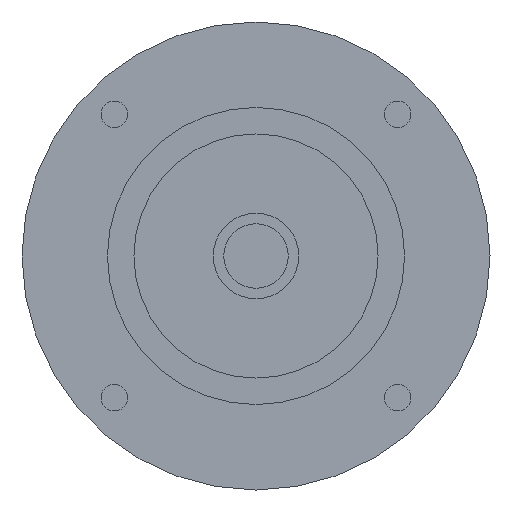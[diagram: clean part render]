
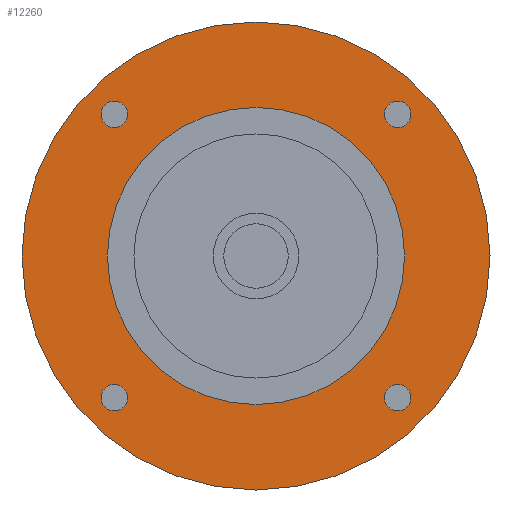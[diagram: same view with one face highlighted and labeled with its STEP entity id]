
A CAD part, left-side view. The second image highlights one B-rep face of the part: STEP entity #12260.
In plain terms, the highlighted planar face has unit normal (-1, 0, 0) as drawn and (0, 0, -1) by its records, which use the part's own axes.
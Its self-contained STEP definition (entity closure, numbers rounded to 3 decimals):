
#8650=CARTESIAN_POINT('',(-57.5,0.,-47.401));
#8660=VERTEX_POINT('',#8650);
#8690=CARTESIAN_POINT('',(0.,0.,
-47.401));
#8700=DIRECTION('',(0.,0.,-1.));
#8710=DIRECTION('',(0.,-1.,0.));
#8720=AXIS2_PLACEMENT_3D('',#8690,#8700,#8710);
#8730=CIRCLE('',#8720,57.5);
#8740=CARTESIAN_POINT('',(57.5,0.,-47.401));
#8750=VERTEX_POINT('',#8740);
#8760=EDGE_CURVE('',#8660,#8750,#8730,.T.);
#11200=CARTESIAN_POINT('',(-31.547,34.797,-47.401));
#11210=VERTEX_POINT('',#11200);
#11240=CARTESIAN_POINT('',(-34.797,34.797,-47.401));
#11250=DIRECTION('',(0.,0.,-1.));
#11260=DIRECTION('',(-1.,0.,0.));
#11270=AXIS2_PLACEMENT_3D('',#11240,#11250,#11260);
#11280=CIRCLE('',#11270,3.25);
#11290=CARTESIAN_POINT('',(-38.047,34.797,-47.401));
#11300=VERTEX_POINT('',#11290);
#11310=EDGE_CURVE('',#11300,#11210,#11280,.T.);
#11430=CARTESIAN_POINT('',(0.,0.,
-47.401));
#11440=DIRECTION('',(0.,0.,-1.));
#11450=DIRECTION('',(1.,0.,0.));
#11460=AXIS2_PLACEMENT_3D('',#11430,#11440,#11450);
#11470=PLANE('',#11460);
#11480=CARTESIAN_POINT('',(34.797,34.797,-47.401));
#11490=DIRECTION('',(0.,0.,-1.));
#11500=DIRECTION('',(0.,1.,0.));
#11510=AXIS2_PLACEMENT_3D('',#11480,#11490,#11500);
#11520=CIRCLE('',#11510,3.25);
#11530=CARTESIAN_POINT('',(34.797,38.047,-47.401));
#11540=VERTEX_POINT('',#11530);
#11550=CARTESIAN_POINT('',(34.797,31.547,-47.401));
#11560=VERTEX_POINT('',#11550);
#11570=EDGE_CURVE('',#11540,#11560,#11520,.T.);
#11580=ORIENTED_EDGE('',*,*,#11570,.F.);
#11590=EDGE_CURVE('',#11560,#11540,#11520,.T.);
#11600=ORIENTED_EDGE('',*,*,#11590,.F.);
#11610=EDGE_LOOP('',(#11600,#11580));
#11620=FACE_BOUND('',#11610,.T.);
#11630=ORIENTED_EDGE('',*,*,#11310,.F.);
#11640=EDGE_CURVE('',#11210,#11300,#11280,.T.);
#11650=ORIENTED_EDGE('',*,*,#11640,.F.);
#11660=EDGE_LOOP('',(#11650,#11630));
#11670=FACE_BOUND('',#11660,.T.);
#11680=CARTESIAN_POINT('',(-34.797,-34.797,-47.401));
#11690=DIRECTION('',(0.,0.,-1.));
#11700=DIRECTION('',(0.,-1.,0.));
#11710=AXIS2_PLACEMENT_3D('',#11680,#11690,#11700);
#11720=CIRCLE('',#11710,3.25);
#11730=CARTESIAN_POINT('',(-34.797,-38.047,-47.401));
#11740=VERTEX_POINT('',#11730);
#11750=CARTESIAN_POINT('',(-34.797,-31.547,-47.401));
#11760=VERTEX_POINT('',#11750);
#11770=EDGE_CURVE('',#11740,#11760,#11720,.T.);
#11780=ORIENTED_EDGE('',*,*,#11770,.F.);
#11790=EDGE_CURVE('',#11760,#11740,#11720,.T.);
#11800=ORIENTED_EDGE('',*,*,#11790,.F.);
#11810=EDGE_LOOP('',(#11800,#11780));
#11820=FACE_BOUND('',#11810,.T.);
#11830=CARTESIAN_POINT('',(0.,0.,
-47.401));
#11840=DIRECTION('',(0.,0.,1.));
#11850=DIRECTION('',(0.,1.,0.));
#11860=AXIS2_PLACEMENT_3D('',#11830,#11840,#11850);
#11870=CIRCLE('',#11860,36.51);
#11880=CARTESIAN_POINT('',(-36.51,0.,-47.401));
#11890=VERTEX_POINT('',#11880);
#11900=CARTESIAN_POINT('',(36.51,0.,-47.401));
#11910=VERTEX_POINT('',#11900);
#11920=EDGE_CURVE('',#11890,#11910,#11870,.T.);
#11930=ORIENTED_EDGE('',*,*,#11920,.T.);
#11940=CARTESIAN_POINT('',(0.,36.51,-47.401));
#11950=VERTEX_POINT('',#11940);
#11960=EDGE_CURVE('',#11950,#11890,#11870,.T.);
#11970=ORIENTED_EDGE('',*,*,#11960,.T.);
#11980=EDGE_CURVE('',#11910,#11950,#11870,.T.);
#11990=ORIENTED_EDGE('',*,*,#11980,.T.);
#12000=EDGE_LOOP('',(#11990,#11970,#11930));
#12010=FACE_BOUND('',#12000,.T.);
#12020=CARTESIAN_POINT('',(34.797,-34.797,-47.401));
#12030=DIRECTION('',(0.,0.,-1.));
#12040=DIRECTION('',(1.,0.,0.));
#12050=AXIS2_PLACEMENT_3D('',#12020,#12030,#12040);
#12060=CIRCLE('',#12050,3.25);
#12070=CARTESIAN_POINT('',(38.047,-34.797,-47.401));
#12080=VERTEX_POINT('',#12070);
#12090=CARTESIAN_POINT('',(31.547,-34.797,-47.401));
#12100=VERTEX_POINT('',#12090);
#12110=EDGE_CURVE('',#12080,#12100,#12060,.T.);
#12120=ORIENTED_EDGE('',*,*,#12110,.F.);
#12130=EDGE_CURVE('',#12100,#12080,#12060,.T.);
#12140=ORIENTED_EDGE('',*,*,#12130,.F.);
#12150=EDGE_LOOP('',(#12140,#12120));
#12160=FACE_BOUND('',#12150,.T.);
#12170=ORIENTED_EDGE('',*,*,#8760,.T.);
#12180=CARTESIAN_POINT('',(0.,-57.5,-47.401));
#12190=VERTEX_POINT('',#12180);
#12200=EDGE_CURVE('',#12190,#8660,#8730,.T.);
#12210=ORIENTED_EDGE('',*,*,#12200,.T.);
#12220=EDGE_CURVE('',#8750,#12190,#8730,.T.);
#12230=ORIENTED_EDGE('',*,*,#12220,.T.);
#12240=EDGE_LOOP('',(#12230,#12210,#12170));
#12250=FACE_OUTER_BOUND('',#12240,.T.);
#12260=ADVANCED_FACE('',(#11620,#11670,#11820,#12010,#12160,#12250),
#11470,.T.);
